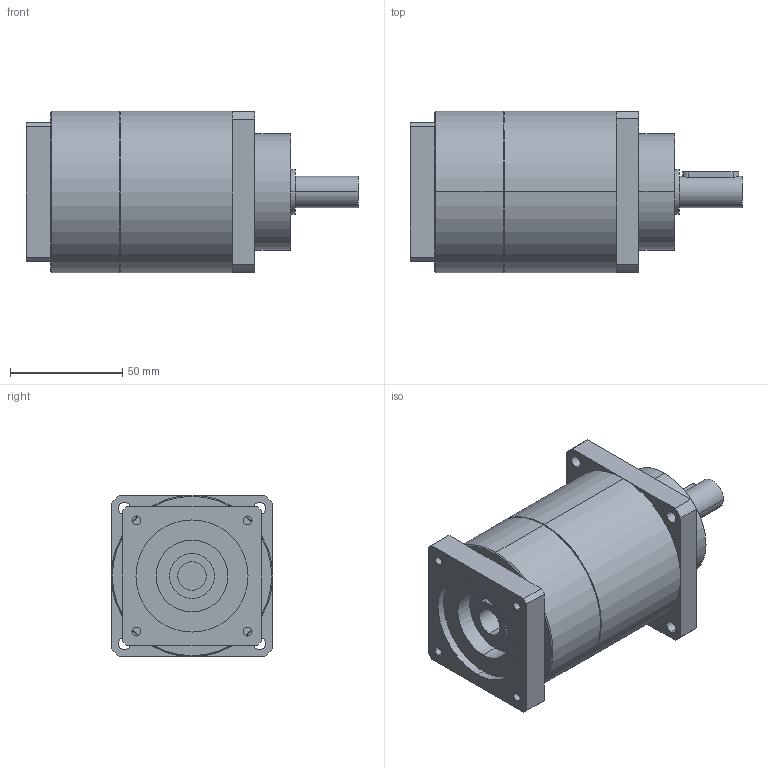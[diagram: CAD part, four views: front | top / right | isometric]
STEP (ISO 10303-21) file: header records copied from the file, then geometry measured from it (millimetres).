
FILE_DESCRIPTION(('CoCreate Modeling STEP Export'),'2;1');
FILE_NAME('GPT75_ig-9-12-16-20-25-28-35-40-50-70-100_14_B5T_12.7_P31.stp','2014-08-27T13:36:12',(''),(''),'CoCreate Modeling STEP processor for AP214 (Solid Model)','CoCreate Modeling 16.00C 25-Feb-2009 (C) Parametric Technology GmbH','');
FILE_SCHEMA(('AUTOMOTIVE_DESIGN { 1 0 10303 214 1 1 1 1 }'));
Length unit declared in the file: millimetre
Products named in the file (2): GPT75_ig-9-12-16-20-25-28-35-40-50-70-100_14_B5T_12.7_P31
Assembly tree (1 placements, depth 2):
  GPT75_ig-9-12-16-20-25-28-35-40-50-70-100_14_B5T_12.7_P31
    GPT75_ig-9-12-16-20-25-28-35-40-50-70-100_14_B5T_12.7_P31
Bounding box: 148 x 72 x 72 mm (x, y, z)
Volume: 445120.6 mm3; surface area: 42916.7 mm2
Topology: 1 solids, 1 shells, 88 faces, 226 edges, 145 vertices
Faces by surface type: cylinder 46, plane 38, cone 4
Entity records: 2676 total; most frequent: CARTESIAN_POINT 744, ORIENTED_EDGE 452, DIRECTION 334, EDGE_CURVE 226, VERTEX_POINT 145, AXIS2_PLACEMENT_3D 123, EDGE_LOOP 109, VECTOR 88
